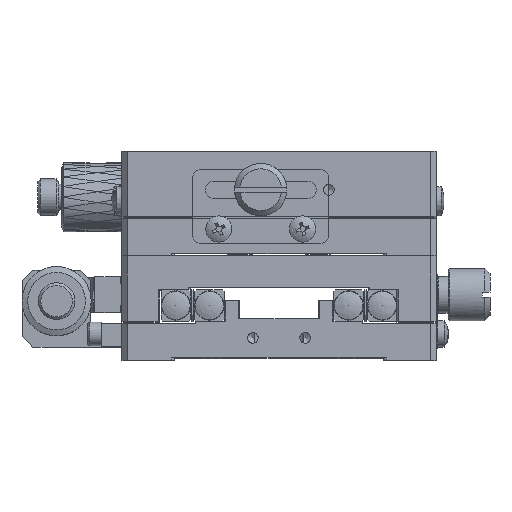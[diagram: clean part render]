
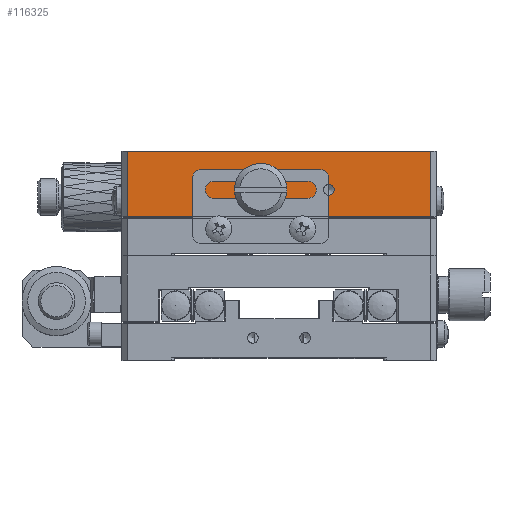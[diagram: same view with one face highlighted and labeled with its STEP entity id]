
A CAD part, top view. The second image highlights one B-rep face of the part: STEP entity #116325.
In plain terms, the highlighted planar face has unit normal (0, 0, 1).
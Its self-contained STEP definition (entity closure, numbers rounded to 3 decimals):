
#695 = EDGE_CURVE ( 'NONE', #94459, #94459, #115981, .T. ) ;
#4203 = DIRECTION ( 'NONE',  ( 1., 0., 0. ) ) ;
#11376 = EDGE_CURVE ( 'NONE', #25147, #74212, #133648, .T. ) ;
#14276 = VECTOR ( 'NONE', #75611, 1000. ) ;
#17197 = ORIENTED_EDGE ( 'NONE', *, *, #49301, .T. ) ;
#18239 = EDGE_LOOP ( 'NONE', ( #54612 ) ) ;
#19245 = FACE_OUTER_BOUND ( 'NONE', #154057, .T. ) ;
#21251 = VECTOR ( 'NONE', #106273, 1000. ) ;
#21778 = FACE_BOUND ( 'NONE', #25397, .T. ) ;
#25119 = EDGE_CURVE ( 'NONE', #117808, #25147, #45354, .T. ) ;
#25147 = VERTEX_POINT ( 'NONE', #124121 ) ;
#25397 = EDGE_LOOP ( 'NONE', ( #79881 ) ) ;
#33291 = CARTESIAN_POINT ( 'NONE',  ( -14.562, 93.203, 68.814 ) ) ;
#43181 = CARTESIAN_POINT ( 'NONE',  ( -27.562, 93.203, 68.814 ) ) ;
#45354 = LINE ( 'NONE', #149766, #52244 ) ;
#45362 = ORIENTED_EDGE ( 'NONE', *, *, #122556, .F. ) ;
#49301 = EDGE_CURVE ( 'NONE', #74212, #158418, #166779, .T. ) ;
#49680 = VERTEX_POINT ( 'NONE', #101028 ) ;
#52244 = VECTOR ( 'NONE', #121593, 1000. ) ;
#53177 = EDGE_LOOP ( 'NONE', ( #68302 ) ) ;
#54449 = AXIS2_PLACEMENT_3D ( 'NONE', #71425, #163879, #126195 ) ;
#54612 = ORIENTED_EDGE ( 'NONE', *, *, #695, .F. ) ;
#62564 = AXIS2_PLACEMENT_3D ( 'NONE', #72631, #69215, #4203 ) ;
#67744 = CARTESIAN_POINT ( 'NONE',  ( -54.062, 88.003, 68.814 ) ) ;
#68302 = ORIENTED_EDGE ( 'NONE', *, *, #91246, .F. ) ;
#68868 = VECTOR ( 'NONE', #88864, 1000. ) ;
#69215 = DIRECTION ( 'NONE',  ( 0., 0., 1. ) ) ;
#71425 = CARTESIAN_POINT ( 'NONE',  ( -54.062, 100.603, 68.814 ) ) ;
#72631 = CARTESIAN_POINT ( 'NONE',  ( -30.562, 93.203, 68.814 ) ) ;
#73967 = PLANE ( 'NONE',  #54449 ) ;
#74212 = VERTEX_POINT ( 'NONE', #119338 ) ;
#74996 = AXIS2_PLACEMENT_3D ( 'NONE', #43181, #95398, #147595 ) ;
#75611 = DIRECTION ( 'NONE',  ( 1., 0., 0. ) ) ;
#79856 = EDGE_CURVE ( 'NONE', #49680, #49680, #131529, .T. ) ;
#79881 = ORIENTED_EDGE ( 'NONE', *, *, #79856, .F. ) ;
#84629 = DIRECTION ( 'NONE',  ( 1., 0., 0. ) ) ;
#88864 = DIRECTION ( 'NONE',  ( 0., 1., 0. ) ) ;
#91246 = EDGE_CURVE ( 'NONE', #98292, #98292, #109036, .T. ) ;
#94459 = VERTEX_POINT ( 'NONE', #146650 ) ;
#95398 = DIRECTION ( 'NONE',  ( 0., 0., 1. ) ) ;
#95743 = CARTESIAN_POINT ( 'NONE',  ( -29.537, 93.203, 68.814 ) ) ;
#98292 = VERTEX_POINT ( 'NONE', #95743 ) ;
#101028 = CARTESIAN_POINT ( 'NONE',  ( -13.537, 93.203, 68.814 ) ) ;
#101290 = CARTESIAN_POINT ( 'NONE',  ( -54.062, 100.603, 68.814 ) ) ;
#103843 = LINE ( 'NONE', #101290, #14276 ) ;
#104122 = ORIENTED_EDGE ( 'NONE', *, *, #11376, .T. ) ;
#106273 = DIRECTION ( 'NONE',  ( 1., 0., 0. ) ) ;
#106955 = AXIS2_PLACEMENT_3D ( 'NONE', #33291, #137729, #84629 ) ;
#109036 = CIRCLE ( 'NONE', #62564, 1.025 ) ;
#113359 = FACE_BOUND ( 'NONE', #53177, .T. ) ;
#114573 = CARTESIAN_POINT ( 'NONE',  ( 4.938, 100.603, 68.814 ) ) ;
#115981 = CIRCLE ( 'NONE', #74996, 1.25 ) ;
#116325 = ADVANCED_FACE ( 'NONE', ( #21778, #113359, #19245, #124516 ), #73967, .F. ) ;
#117808 = VERTEX_POINT ( 'NONE', #120760 ) ;
#119338 = CARTESIAN_POINT ( 'NONE',  ( 4.938, 88.003, 68.814 ) ) ;
#120760 = CARTESIAN_POINT ( 'NONE',  ( -53.062, 100.603, 68.814 ) ) ;
#121593 = DIRECTION ( 'NONE',  ( 0., -1., 0. ) ) ;
#122556 = EDGE_CURVE ( 'NONE', #117808, #158418, #103843, .T. ) ;
#124121 = CARTESIAN_POINT ( 'NONE',  ( -53.062, 88.003, 68.814 ) ) ;
#124288 = ORIENTED_EDGE ( 'NONE', *, *, #25119, .T. ) ;
#124516 = FACE_BOUND ( 'NONE', #18239, .T. ) ;
#126195 = DIRECTION ( 'NONE',  ( -1., 0., 0. ) ) ;
#131529 = CIRCLE ( 'NONE', #106955, 1.025 ) ;
#133648 = LINE ( 'NONE', #67744, #21251 ) ;
#134421 = CARTESIAN_POINT ( 'NONE',  ( 4.938, 100.603, 68.814 ) ) ;
#137729 = DIRECTION ( 'NONE',  ( 0., 0., 1. ) ) ;
#146650 = CARTESIAN_POINT ( 'NONE',  ( -26.312, 93.203, 68.814 ) ) ;
#147595 = DIRECTION ( 'NONE',  ( 1., 0., 0. ) ) ;
#149766 = CARTESIAN_POINT ( 'NONE',  ( -53.062, 100.603, 68.814 ) ) ;
#154057 = EDGE_LOOP ( 'NONE', ( #45362, #124288, #104122, #17197 ) ) ;
#158418 = VERTEX_POINT ( 'NONE', #134421 ) ;
#163879 = DIRECTION ( 'NONE',  ( 0., 0., -1. ) ) ;
#166779 = LINE ( 'NONE', #114573, #68868 ) ;
